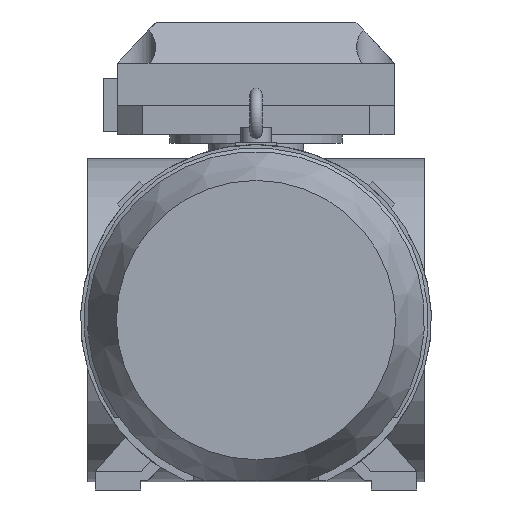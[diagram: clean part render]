
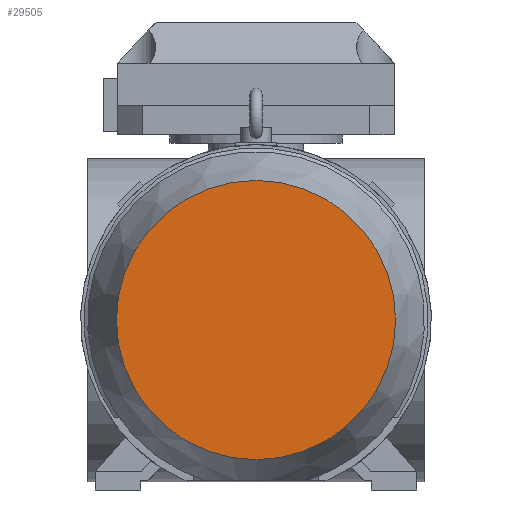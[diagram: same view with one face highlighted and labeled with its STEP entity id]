
A CAD part, left-side view. The second image highlights one B-rep face of the part: STEP entity #29505.
In plain terms, the highlighted planar face has unit normal (-1, 0, 0).
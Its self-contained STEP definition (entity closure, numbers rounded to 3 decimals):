
#2067=CIRCLE('',#30980,230.);
#2068=CIRCLE('',#30981,230.);
#4271=FACE_OUTER_BOUND('',#6030,.T.);
#6030=EDGE_LOOP('',(#19873,#19874));
#11068=VERTEX_POINT('',#43268);
#11069=VERTEX_POINT('',#43270);
#13813=EDGE_CURVE('',#11069,#11068,#2067,.T.);
#13814=EDGE_CURVE('',#11068,#11069,#2068,.T.);
#19873=ORIENTED_EDGE('',*,*,#13813,.T.);
#19874=ORIENTED_EDGE('',*,*,#13814,.T.);
#27148=PLANE('',#31512);
#29505=ADVANCED_FACE('',(#4271),#27148,.F.);
#30980=AXIS2_PLACEMENT_3D('',#43271,#34522,#34523);
#30981=AXIS2_PLACEMENT_3D('',#43272,#34524,#34525);
#31512=AXIS2_PLACEMENT_3D('',#45283,#36098,#36099);
#34522=DIRECTION('center_axis',(-1.,0.,0.));
#34523=DIRECTION('ref_axis',(0.,1.,0.));
#34524=DIRECTION('center_axis',(-1.,0.,0.));
#34525=DIRECTION('ref_axis',(0.,1.,0.));
#36098=DIRECTION('center_axis',(1.,0.,0.));
#36099=DIRECTION('ref_axis',(0.,1.,0.));
#43268=CARTESIAN_POINT('',(-1428.281,0.,-228.395));
#43270=CARTESIAN_POINT('',(-1428.281,0.,231.605));
#43271=CARTESIAN_POINT('Origin',(-1428.281,0.,
1.605));
#43272=CARTESIAN_POINT('Origin',(-1428.281,0.,
1.605));
#45283=CARTESIAN_POINT('Origin',(-1428.281,0.,
231.605));
